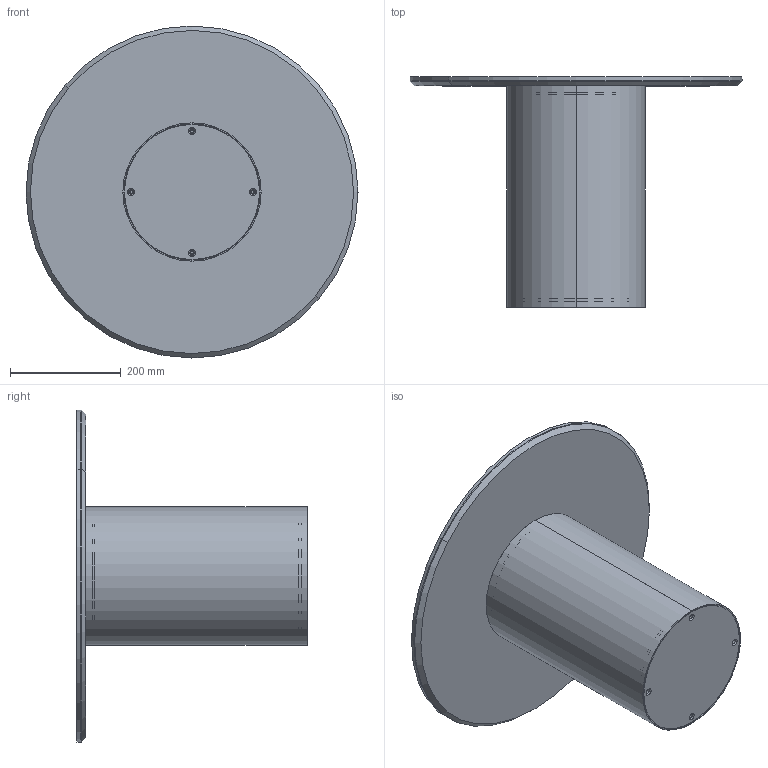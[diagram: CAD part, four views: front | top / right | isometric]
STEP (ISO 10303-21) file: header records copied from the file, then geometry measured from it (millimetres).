
FILE_DESCRIPTION (( 'STEP AP203' ), '1' );
FILE_NAME ('CL01C.STEP', '2024-08-06T10:10:13', ( '' ), ( '' ), 'SwSTEP 2.0', 'SolidWorks 2022', '' );
FILE_SCHEMA (( 'CONFIG_CONTROL_DESIGN' ));
Length unit declared in the file: millimetre
Products named in the file (12): K1XCMXX-00-Piani Rotondi in ceramica_D.600; nut_M8_M8; CLB2000000-01-CILINDRO LOW D.25cm BASE GREZZA; CLB2000000_02-00-Fusto centrale D.25cm; CLB2000000_05-00-ring per piano cilindro low D.25cm; CL01C; P0000006-00-PIASTRA D.150mm X PIANI CER_CRI_MARMO_PIASTRA; CLB2000000_04-00-ring per zavorra cilindro low D.25cm; GRANO M8_barra; CLB2000000_06-00-traversino per piano cilindro low D.25cm; KXXCXX-00-Piani Rotondi in ceramica CON PIASTRA_K01P PIANO CERAMICA D.60cm; CLB2000000_03-01-Zavorra cilindro low D.25cm
Assembly tree (11 placements, depth 3):
  CL01C
    CLB2000000-01-CILINDRO LOW D.25cm BASE GREZZA
      CLB2000000_02-00-Fusto centrale D.25cm
      CLB2000000_04-00-ring per zavorra cilindro low D.25cm
      CLB2000000_05-00-ring per piano cilindro low D.25cm
      CLB2000000_06-00-traversino per piano cilindro low D.25cm
      nut_M8_M8
      CLB2000000_03-01-Zavorra cilindro low D.25cm
    KXXCXX-00-Piani Rotondi in ceramica CON PIASTRA_K01P PIANO CERAMICA D.60cm
      K1XCMXX-00-Piani Rotondi in ceramica_D.600
      P0000006-00-PIASTRA D.150mm X PIANI CER_CRI_MARMO_PIASTRA
    GRANO M8_barra
Bounding box: 600 x 416 x 600 mm (x, y, z)
Volume: 5830700 mm3; surface area: 2016119.6 mm2
Topology: 10 solids, 10 shells, 122 faces, 288 edges, 186 vertices
Faces by surface type: cylinder 66, plane 34, cone 22
Entity records: 5018 total; most frequent: CARTESIAN_POINT 740, DIRECTION 702, ORIENTED_EDGE 576, AXIS2_PLACEMENT_3D 292, EDGE_CURVE 288, VERTEX_POINT 186, EDGE_LOOP 156, CIRCLE 154
